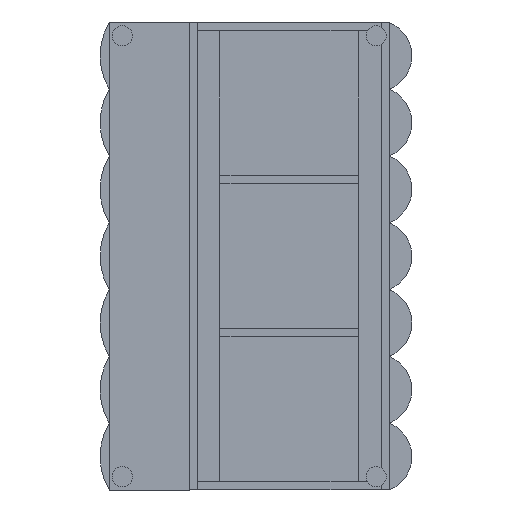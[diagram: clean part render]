
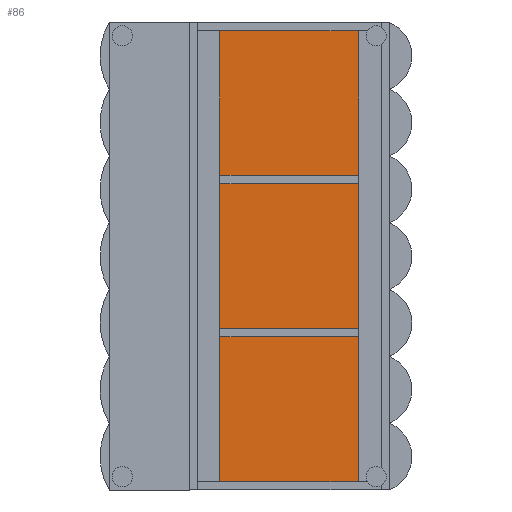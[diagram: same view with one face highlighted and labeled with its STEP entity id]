
A CAD part, front view. The second image highlights one B-rep face of the part: STEP entity #86.
In plain terms, the highlighted planar face has unit normal (0, -1, 0).
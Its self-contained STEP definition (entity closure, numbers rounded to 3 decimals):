
#42 = LINE ( 'NONE', #1494, #8552 ) ;
#86 = ADVANCED_FACE ( 'NONE', ( #4985 ), #6383, .F. ) ;
#564 = ORIENTED_EDGE ( 'NONE', *, *, #1355, .F. ) ;
#689 = VERTEX_POINT ( 'NONE', #5866 ) ;
#1022 = DIRECTION ( 'NONE',  ( 0., 0., 1. ) ) ;
#1355 = EDGE_CURVE ( 'NONE', #689, #7074, #7379, .T. ) ;
#1494 = CARTESIAN_POINT ( 'NONE',  ( -525., 291., 0. ) ) ;
#2040 = DIRECTION ( 'NONE',  ( 1., 0., 0. ) ) ;
#2108 = DIRECTION ( 'NONE',  ( 0., 0., 1. ) ) ;
#2167 = ORIENTED_EDGE ( 'NONE', *, *, #7403, .F. ) ;
#2470 = EDGE_CURVE ( 'NONE', #7074, #6223, #5992, .T. ) ;
#2518 = CARTESIAN_POINT ( 'NONE',  ( 525., 291., 450. ) ) ;
#2559 = CARTESIAN_POINT ( 'NONE',  ( 525., 291., 0. ) ) ;
#2711 = DIRECTION ( 'NONE',  ( -1., 0., 0. ) ) ;
#2725 = CARTESIAN_POINT ( 'NONE',  ( -525., 291., 450. ) ) ;
#2756 = CARTESIAN_POINT ( 'NONE',  ( -525., 291., 0. ) ) ;
#3168 = DIRECTION ( 'NONE',  ( 0., 0., -1. ) ) ;
#3359 = VECTOR ( 'NONE', #2108, 1000. ) ;
#3558 = VECTOR ( 'NONE', #3168, 1000. ) ;
#4905 = ORIENTED_EDGE ( 'NONE', *, *, #2470, .F. ) ;
#4985 = FACE_OUTER_BOUND ( 'NONE', #8558, .T. ) ;
#5116 = CARTESIAN_POINT ( 'NONE',  ( 0., 291., 0. ) ) ;
#5866 = CARTESIAN_POINT ( 'NONE',  ( -525., 291., 0. ) ) ;
#5992 = LINE ( 'NONE', #2725, #6462 ) ;
#6223 = VERTEX_POINT ( 'NONE', #2518 ) ;
#6383 = PLANE ( 'NONE',  #8065 ) ;
#6462 = VECTOR ( 'NONE', #2040, 1000. ) ;
#6471 = DIRECTION ( 'NONE',  ( 0., 1., 0. ) ) ;
#6548 = CARTESIAN_POINT ( 'NONE',  ( 525., 291., 0. ) ) ;
#6812 = EDGE_CURVE ( 'NONE', #7041, #689, #42, .T. ) ;
#7041 = VERTEX_POINT ( 'NONE', #6548 ) ;
#7074 = VERTEX_POINT ( 'NONE', #7279 ) ;
#7279 = CARTESIAN_POINT ( 'NONE',  ( -525., 291., 450. ) ) ;
#7379 = LINE ( 'NONE', #2756, #3359 ) ;
#7403 = EDGE_CURVE ( 'NONE', #6223, #7041, #8571, .T. ) ;
#8059 = ORIENTED_EDGE ( 'NONE', *, *, #6812, .F. ) ;
#8065 = AXIS2_PLACEMENT_3D ( 'NONE', #5116, #6471, #1022 ) ;
#8552 = VECTOR ( 'NONE', #2711, 1000. ) ;
#8558 = EDGE_LOOP ( 'NONE', ( #564, #8059, #2167, #4905 ) ) ;
#8571 = LINE ( 'NONE', #2559, #3558 ) ;
